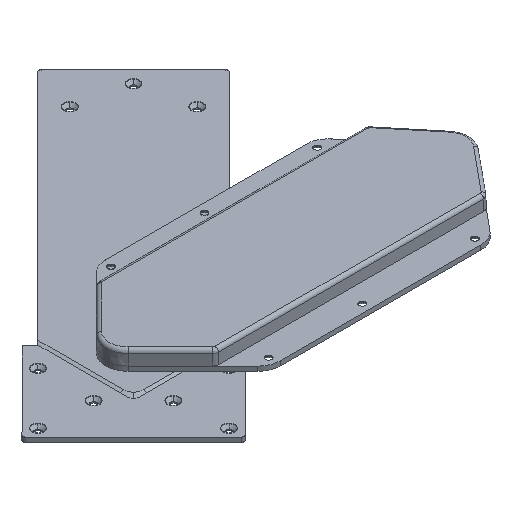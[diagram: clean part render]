
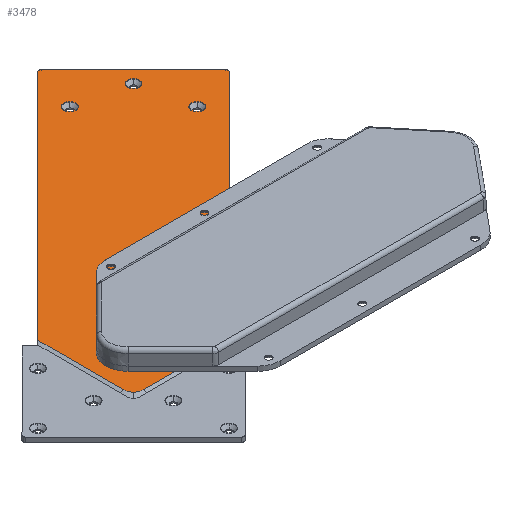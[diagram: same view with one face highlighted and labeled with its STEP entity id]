
A CAD part, isometric view. The second image highlights one B-rep face of the part: STEP entity #3478.
In plain terms, the highlighted planar face has unit normal (0, 0, 1) as drawn and (0, 0, -1) by its records, which use the part's own axes.
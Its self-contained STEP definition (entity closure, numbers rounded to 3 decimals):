
#41 = DIRECTION ( 'NONE',  ( -1., 0., 0. ) ) ;
#44 = ORIENTED_EDGE ( 'NONE', *, *, #781, .T. ) ;
#53 = CARTESIAN_POINT ( 'NONE',  ( 147.083, -147.083, 0. ) ) ;
#58 = ORIENTED_EDGE ( 'NONE', *, *, #1249, .F. ) ;
#238 = EDGE_CURVE ( 'NONE', #3585, #1337, #2409, .T. ) ;
#267 = VERTEX_POINT ( 'NONE', #4076 ) ;
#325 = ORIENTED_EDGE ( 'NONE', *, *, #609, .T. ) ;
#346 = CARTESIAN_POINT ( 'NONE',  ( 45.25, 20., 0. ) ) ;
#355 = ORIENTED_EDGE ( 'NONE', *, *, #1138, .F. ) ;
#415 = CARTESIAN_POINT ( 'NONE',  ( 15., 60., 0. ) ) ;
#506 = ORIENTED_EDGE ( 'NONE', *, *, #3060, .F. ) ;
#518 = DIRECTION ( 'NONE',  ( 0., 0., -1. ) ) ;
#547 = EDGE_CURVE ( 'NONE', #3304, #3585, #3805, .T. ) ;
#597 = PLANE ( 'NONE',  #3575 ) ;
#609 = EDGE_CURVE ( 'NONE', #1337, #2126, #4506, .T. ) ;
#724 = AXIS2_PLACEMENT_3D ( 'NONE', #1942, #3448, #2449 ) ;
#781 = EDGE_CURVE ( 'NONE', #2041, #5461, #5638, .T. ) ;
#808 = VECTOR ( 'NONE', #1478, 1000. ) ;
#827 = VECTOR ( 'NONE', #5440, 1000. ) ;
#868 = EDGE_CURVE ( 'NONE', #2126, #2685, #4811, .T. ) ;
#931 = LINE ( 'NONE', #3809, #5868 ) ;
#975 = ORIENTED_EDGE ( 'NONE', *, *, #238, .T. ) ;
#989 = CARTESIAN_POINT ( 'NONE',  ( 2., 0., 0. ) ) ;
#1045 = EDGE_CURVE ( 'NONE', #4427, #1090, #4315, .T. ) ;
#1090 = VERTEX_POINT ( 'NONE', #4529 ) ;
#1114 = AXIS2_PLACEMENT_3D ( 'NONE', #415, #5557, #2220 ) ;
#1116 = FACE_BOUND ( 'NONE', #5413, .T. ) ;
#1138 = EDGE_CURVE ( 'NONE', #4433, #267, #4118, .T. ) ;
#1187 = DIRECTION ( 'NONE',  ( 0., 0., -1. ) ) ;
#1218 = EDGE_CURVE ( 'NONE', #3619, #2685, #931, .T. ) ;
#1249 = EDGE_CURVE ( 'NONE', #267, #4433, #5443, .T. ) ;
#1277 = ORIENTED_EDGE ( 'NONE', *, *, #1218, .F. ) ;
#1325 = CARTESIAN_POINT ( 'NONE',  ( 2., 118., 0. ) ) ;
#1337 = VERTEX_POINT ( 'NONE', #2550 ) ;
#1420 = CARTESIAN_POINT ( 'NONE',  ( 341.716, 60., 0. ) ) ;
#1478 = DIRECTION ( 'NONE',  ( -0.707, -0.707, 0. ) ) ;
#1495 = DIRECTION ( 'NONE',  ( 0., 1., 0. ) ) ;
#1501 = CARTESIAN_POINT ( 'NONE',  ( 2., 2., 0. ) ) ;
#1553 = AXIS2_PLACEMENT_3D ( 'NONE', #5349, #518, #41 ) ;
#1581 = CARTESIAN_POINT ( 'NONE',  ( 0., 120., 0. ) ) ;
#1589 = AXIS2_PLACEMENT_3D ( 'NONE', #4164, #3202, #3695 ) ;
#1847 = VERTEX_POINT ( 'NONE', #3615 ) ;
#1904 = CARTESIAN_POINT ( 'NONE',  ( 294.166, 120., 0. ) ) ;
#1942 = CARTESIAN_POINT ( 'NONE',  ( 40., 100., 0. ) ) ;
#1955 = EDGE_LOOP ( 'NONE', ( #506, #5803 ) ) ;
#1994 = CARTESIAN_POINT ( 'NONE',  ( 207.083, 207.083, 0. ) ) ;
#2014 = AXIS2_PLACEMENT_3D ( 'NONE', #1420, #4337, #3432 ) ;
#2023 = AXIS2_PLACEMENT_3D ( 'NONE', #4341, #3175, #5340 ) ;
#2041 = VERTEX_POINT ( 'NONE', #4578 ) ;
#2120 = FACE_OUTER_BOUND ( 'NONE', #5596, .T. ) ;
#2126 = VERTEX_POINT ( 'NONE', #5325 ) ;
#2220 = DIRECTION ( 'NONE',  ( -1., 0., 0. ) ) ;
#2226 = EDGE_CURVE ( 'NONE', #3619, #1847, #2860, .T. ) ;
#2250 = EDGE_CURVE ( 'NONE', #1090, #4427, #5387, .T. ) ;
#2274 = CIRCLE ( 'NONE', #1553, 5.25 ) ;
#2409 = CIRCLE ( 'NONE', #1589, 8.804 ) ;
#2449 = DIRECTION ( 'NONE',  ( -1., 0., 0. ) ) ;
#2473 = CARTESIAN_POINT ( 'NONE',  ( 0., 0., 0. ) ) ;
#2501 = CARTESIAN_POINT ( 'NONE',  ( 0., 0., 0. ) ) ;
#2550 = CARTESIAN_POINT ( 'NONE',  ( 350.52, 60., 0. ) ) ;
#2656 = AXIS2_PLACEMENT_3D ( 'NONE', #2950, #4875, #3330 ) ;
#2685 = VERTEX_POINT ( 'NONE', #4609 ) ;
#2860 = CIRCLE ( 'NONE', #3363, 2. ) ;
#2917 = ORIENTED_EDGE ( 'NONE', *, *, #547, .T. ) ;
#2950 = CARTESIAN_POINT ( 'NONE',  ( 40., 20., 0. ) ) ;
#3059 = DIRECTION ( 'NONE',  ( -1., 0., 0. ) ) ;
#3060 = EDGE_CURVE ( 'NONE', #4057, #6161, #2274, .T. ) ;
#3112 = ORIENTED_EDGE ( 'NONE', *, *, #868, .T. ) ;
#3175 = DIRECTION ( 'NONE',  ( 0., 0., -1. ) ) ;
#3202 = DIRECTION ( 'NONE',  ( 0., 0., -1. ) ) ;
#3282 = CARTESIAN_POINT ( 'NONE',  ( 347.941, 66.225, 0. ) ) ;
#3304 = VERTEX_POINT ( 'NONE', #1904 ) ;
#3330 = DIRECTION ( 'NONE',  ( -1., 0., 0. ) ) ;
#3363 = AXIS2_PLACEMENT_3D ( 'NONE', #1501, #4390, #5739 ) ;
#3366 = ORIENTED_EDGE ( 'NONE', *, *, #2226, .T. ) ;
#3407 = DIRECTION ( 'NONE',  ( 1., 0., 0. ) ) ;
#3432 = DIRECTION ( 'NONE',  ( 1., 0., 0. ) ) ;
#3448 = DIRECTION ( 'NONE',  ( 0., 0., -1. ) ) ;
#3478 = ADVANCED_FACE ( 'NONE', ( #2120, #3526, #1116, #4990 ), #597, .F. ) ;
#3505 = CARTESIAN_POINT ( 'NONE',  ( 34.75, 100., 0. ) ) ;
#3526 = FACE_BOUND ( 'NONE', #6166, .T. ) ;
#3575 = AXIS2_PLACEMENT_3D ( 'NONE', #2501, #4024, #5975 ) ;
#3585 = VERTEX_POINT ( 'NONE', #3282 ) ;
#3615 = CARTESIAN_POINT ( 'NONE',  ( 0., 2., 0. ) ) ;
#3619 = VERTEX_POINT ( 'NONE', #989 ) ;
#3695 = DIRECTION ( 'NONE',  ( 1., 0., 0. ) ) ;
#3716 = AXIS2_PLACEMENT_3D ( 'NONE', #5865, #1187, #3059 ) ;
#3805 = LINE ( 'NONE', #1994, #3812 ) ;
#3809 = CARTESIAN_POINT ( 'NONE',  ( 0., 0., 0. ) ) ;
#3812 = VECTOR ( 'NONE', #3925, 1000. ) ;
#3838 = CARTESIAN_POINT ( 'NONE',  ( 2., 120., 0. ) ) ;
#3925 = DIRECTION ( 'NONE',  ( 0.707, -0.707, 0. ) ) ;
#4005 = AXIS2_PLACEMENT_3D ( 'NONE', #1325, #6098, #5615 ) ;
#4024 = DIRECTION ( 'NONE',  ( 0., 0., 1. ) ) ;
#4036 = EDGE_CURVE ( 'NONE', #6161, #4057, #4527, .T. ) ;
#4057 = VERTEX_POINT ( 'NONE', #3505 ) ;
#4076 = CARTESIAN_POINT ( 'NONE',  ( 20.25, 60., 0. ) ) ;
#4118 = CIRCLE ( 'NONE', #1114, 5.25 ) ;
#4130 = EDGE_CURVE ( 'NONE', #5461, #3304, #4965, .T. ) ;
#4146 = CARTESIAN_POINT ( 'NONE',  ( 9.75, 60., 0. ) ) ;
#4164 = CARTESIAN_POINT ( 'NONE',  ( 341.716, 60., 0. ) ) ;
#4243 = ORIENTED_EDGE ( 'NONE', *, *, #2250, .F. ) ;
#4283 = LINE ( 'NONE', #2473, #6179 ) ;
#4315 = CIRCLE ( 'NONE', #3716, 5.25 ) ;
#4337 = DIRECTION ( 'NONE',  ( 0., 0., -1. ) ) ;
#4341 = CARTESIAN_POINT ( 'NONE',  ( 15., 60., 0. ) ) ;
#4390 = DIRECTION ( 'NONE',  ( 0., 0., -1. ) ) ;
#4427 = VERTEX_POINT ( 'NONE', #346 ) ;
#4433 = VERTEX_POINT ( 'NONE', #4146 ) ;
#4487 = CARTESIAN_POINT ( 'NONE',  ( 45.25, 100., 0. ) ) ;
#4506 = CIRCLE ( 'NONE', #2014, 8.804 ) ;
#4527 = CIRCLE ( 'NONE', #724, 5.25 ) ;
#4529 = CARTESIAN_POINT ( 'NONE',  ( 34.75, 20., 0. ) ) ;
#4578 = CARTESIAN_POINT ( 'NONE',  ( 0., 118., 0. ) ) ;
#4609 = CARTESIAN_POINT ( 'NONE',  ( 294.166, 0., 0. ) ) ;
#4647 = EDGE_CURVE ( 'NONE', #1847, #2041, #4283, .T. ) ;
#4811 = LINE ( 'NONE', #53, #808 ) ;
#4875 = DIRECTION ( 'NONE',  ( 0., 0., -1. ) ) ;
#4965 = LINE ( 'NONE', #1581, #827 ) ;
#4990 = FACE_BOUND ( 'NONE', #1955, .T. ) ;
#5044 = ORIENTED_EDGE ( 'NONE', *, *, #4647, .T. ) ;
#5325 = CARTESIAN_POINT ( 'NONE',  ( 347.941, 53.775, 0. ) ) ;
#5340 = DIRECTION ( 'NONE',  ( -1., 0., 0. ) ) ;
#5349 = CARTESIAN_POINT ( 'NONE',  ( 40., 100., 0. ) ) ;
#5387 = CIRCLE ( 'NONE', #2656, 5.25 ) ;
#5413 = EDGE_LOOP ( 'NONE', ( #4243, #6079 ) ) ;
#5440 = DIRECTION ( 'NONE',  ( 1., 0., 0. ) ) ;
#5443 = CIRCLE ( 'NONE', #2023, 5.25 ) ;
#5461 = VERTEX_POINT ( 'NONE', #3838 ) ;
#5529 = ORIENTED_EDGE ( 'NONE', *, *, #4130, .T. ) ;
#5557 = DIRECTION ( 'NONE',  ( 0., 0., -1. ) ) ;
#5596 = EDGE_LOOP ( 'NONE', ( #5529, #2917, #975, #325, #3112, #1277, #3366, #5044, #44 ) ) ;
#5615 = DIRECTION ( 'NONE',  ( 1., 0., 0. ) ) ;
#5638 = CIRCLE ( 'NONE', #4005, 2. ) ;
#5739 = DIRECTION ( 'NONE',  ( 1., 0., 0. ) ) ;
#5803 = ORIENTED_EDGE ( 'NONE', *, *, #4036, .F. ) ;
#5865 = CARTESIAN_POINT ( 'NONE',  ( 40., 20., 0. ) ) ;
#5868 = VECTOR ( 'NONE', #3407, 1000. ) ;
#5975 = DIRECTION ( 'NONE',  ( 1., 0., 0. ) ) ;
#6079 = ORIENTED_EDGE ( 'NONE', *, *, #1045, .F. ) ;
#6098 = DIRECTION ( 'NONE',  ( 0., 0., -1. ) ) ;
#6161 = VERTEX_POINT ( 'NONE', #4487 ) ;
#6166 = EDGE_LOOP ( 'NONE', ( #355, #58 ) ) ;
#6179 = VECTOR ( 'NONE', #1495, 1000. ) ;
